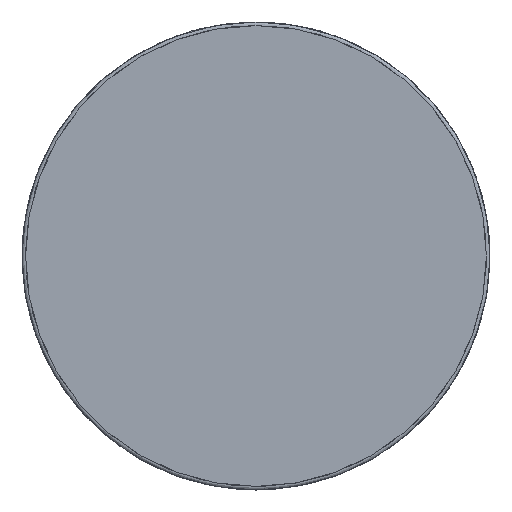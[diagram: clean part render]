
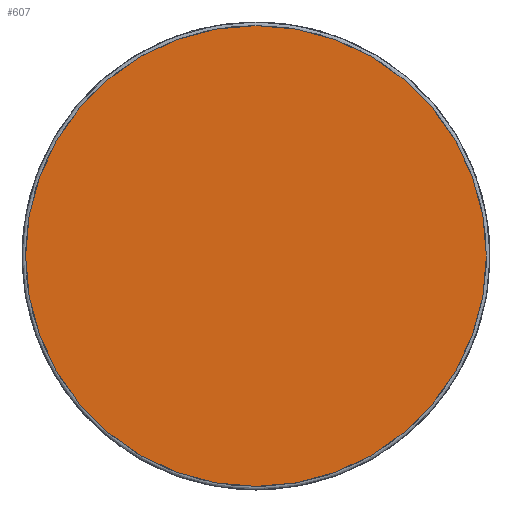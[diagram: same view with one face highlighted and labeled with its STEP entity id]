
A CAD part, left-side view. The second image highlights one B-rep face of the part: STEP entity #607.
In plain terms, the highlighted planar face has unit normal (-1, 0, 0).
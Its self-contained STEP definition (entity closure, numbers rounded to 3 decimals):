
#560=CARTESIAN_POINT('',(-528.136,-456.109,0.0));
#561=VERTEX_POINT('',#560);
#568=CARTESIAN_POINT('',(-528.136,-520.109,0.0));
#569=VERTEX_POINT('',#568);
#570=CARTESIAN_POINT('',(-528.136,-488.109,0.0));
#571=DIRECTION('',(-1.0,0.0,0.0));
#572=DIRECTION('',(0.0,1.0,0.0));
#573=AXIS2_PLACEMENT_3D('',#570,#571,#572);
#574=CIRCLE('',#573,32.0);
#575=EDGE_CURVE('',#569,#561,#574,.T.);
#577=CARTESIAN_POINT('',(-528.136,-488.109,0.0));
#578=DIRECTION('',(-1.0,0.0,0.0));
#579=DIRECTION('',(0.0,1.0,0.0));
#580=AXIS2_PLACEMENT_3D('',#577,#578,#579);
#581=CIRCLE('',#580,32.0);
#582=EDGE_CURVE('',#561,#569,#581,.T.);
#598=CARTESIAN_POINT('',(-528.136,-526.51,38.4));
#599=DIRECTION('',(-1.0,0.0,0.0));
#600=DIRECTION('',(0.0,1.0,0.0));
#601=AXIS2_PLACEMENT_3D('',#598,#599,#600);
#602=PLANE('',#601);
#603=ORIENTED_EDGE('',*,*,#582,.T.);
#604=ORIENTED_EDGE('',*,*,#575,.T.);
#605=EDGE_LOOP('',(#603,#604));
#606=FACE_OUTER_BOUND('',#605,.T.);
#607=ADVANCED_FACE('',(#606),#602,.T.);
